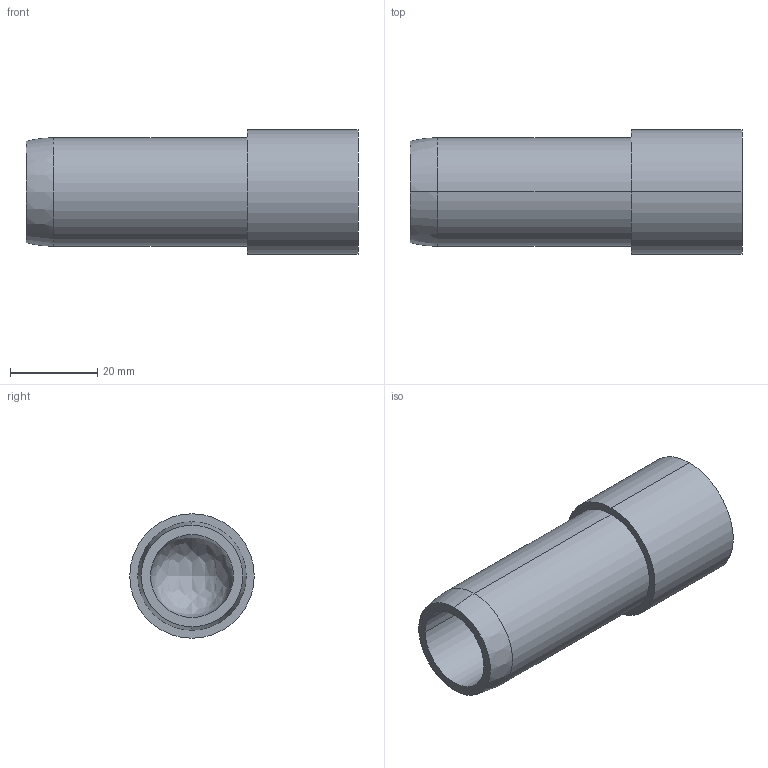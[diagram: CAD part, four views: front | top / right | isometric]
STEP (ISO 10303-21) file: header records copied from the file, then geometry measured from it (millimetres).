
FILE_DESCRIPTION (( 'STEP AP203' ), '1' );
FILE_NAME ('FDPCK-MODCON1-END-BLNK.step', '2019-09-11T18:44:30', ( 'ydmin' ), ( '' ), 'SwSTEP 2.0', 'SolidWorks 2017', '' );
FILE_SCHEMA (( 'CONFIG_CONTROL_DESIGN' ));
Length unit declared in the file: inch
Products named in the file (1): FDPCK-MODCON1-END-BLNK
Bounding box: 76.2 x 28.57 x 28.57 mm (x, y, z)
Volume: 27304.1 mm3; surface area: 10226.1 mm2
Topology: 1 solids, 1 shells, 14 faces, 30 edges, 17 vertices
Faces by surface type: cylinder 6, bspline 3, plane 3, cone 2
Entity records: 472 total; most frequent: CARTESIAN_POINT 103, DIRECTION 68, ORIENTED_EDGE 52, AXIS2_PLACEMENT_3D 30, EDGE_CURVE 26, CIRCLE 18, EDGE_LOOP 17, VERTEX_POINT 17
